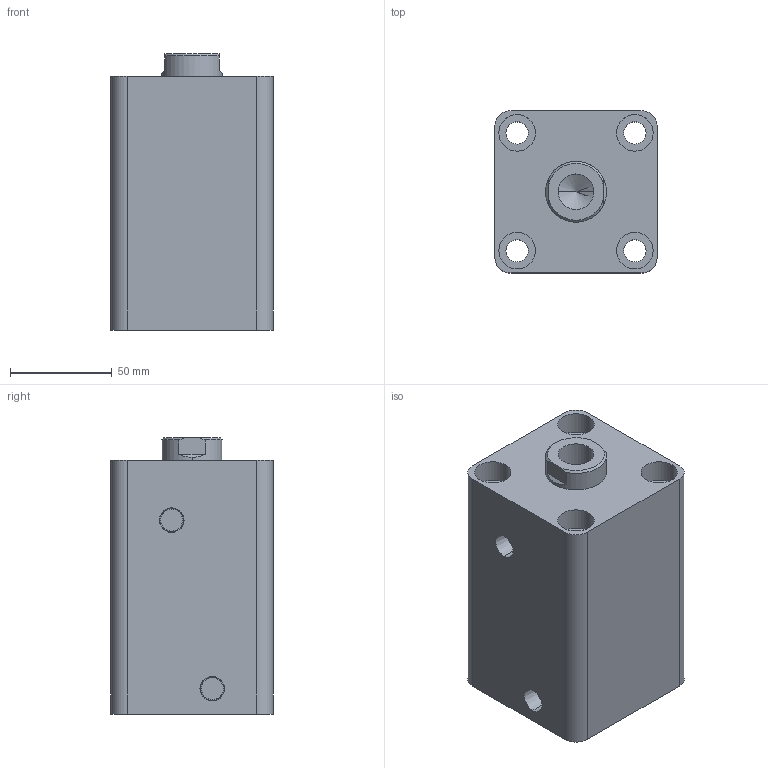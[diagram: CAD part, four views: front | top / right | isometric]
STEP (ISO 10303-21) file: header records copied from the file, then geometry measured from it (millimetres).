
FILE_DESCRIPTION (( 'STEP AP203' ), '1' );
FILE_NAME ('HTB-SD50-65N.STEP', '2019-10-07T07:11:21', ( '微软用户' ), ( '微软中国' ), 'SwSTEP 2.0', 'SolidWorks 2012', '' );
FILE_SCHEMA (( 'CONFIG_CONTROL_DESIGN' ));
Length unit declared in the file: millimetre
Products named in the file (3): HTB-SD50-65N; HTB-SD50-65N活塞杆; HTB-SD50-65掛极
Assembly tree (2 placements, depth 2):
  HTB-SD50-65N
    HTB-SD50-65掛极
    HTB-SD50-65N活塞杆
Bounding box: 80 x 80 x 136 mm (x, y, z)
Volume: 648583.7 mm3; surface area: 107205.5 mm2
Topology: 2 solids, 2 shells, 83 faces, 184 edges, 119 vertices
Faces by surface type: cylinder 42, plane 27, cone 8, torus 6
Entity records: 2655 total; most frequent: DIRECTION 456, CARTESIAN_POINT 417, ORIENTED_EDGE 364, AXIS2_PLACEMENT_3D 194, EDGE_CURVE 182, VERTEX_POINT 119, EDGE_LOOP 107, CIRCLE 106
